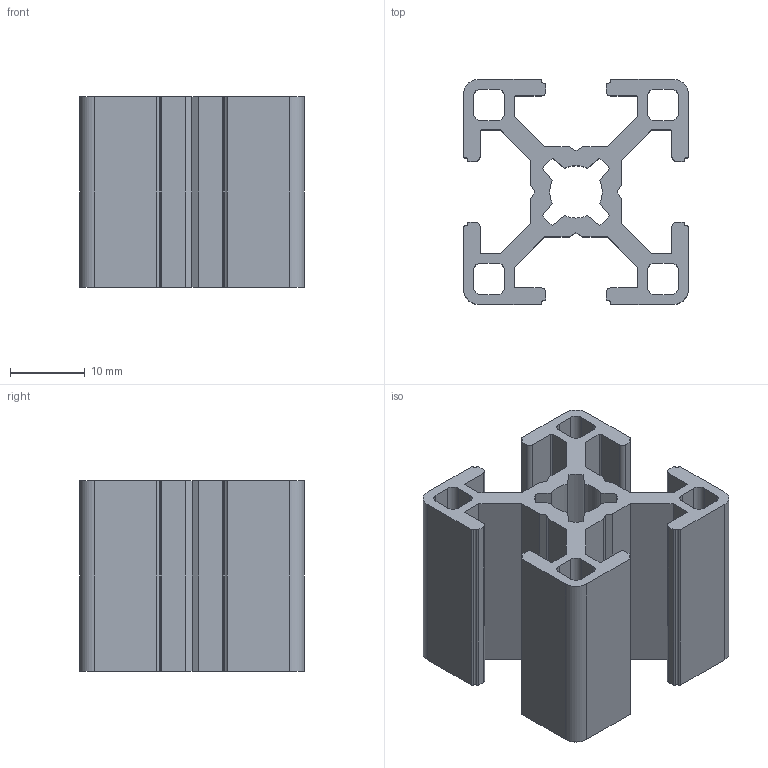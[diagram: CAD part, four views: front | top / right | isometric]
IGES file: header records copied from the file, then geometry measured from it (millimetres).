
Global section: file name: C:\Documents and Settings\Administrator\Desktop\Transfer Temp\bosch3030.igs; native system: AutoDesk Inventor R2.0 ; preprocessor: AutoDesk Inventor Iges Exporter R2.0; author: No Author specified; organization: No Organization specified; date: 20020117.162737; units: millimetre
Bounding box: 30 x 30 x 25.4 mm (x, y, z)
Surface area: 9030.7 mm2 (no closed solid volume)
Topology: 0 solids, 0 shells, 166 faces, 984 edges, 984 vertices
Faces by surface type: bspline 98, revolution 68
